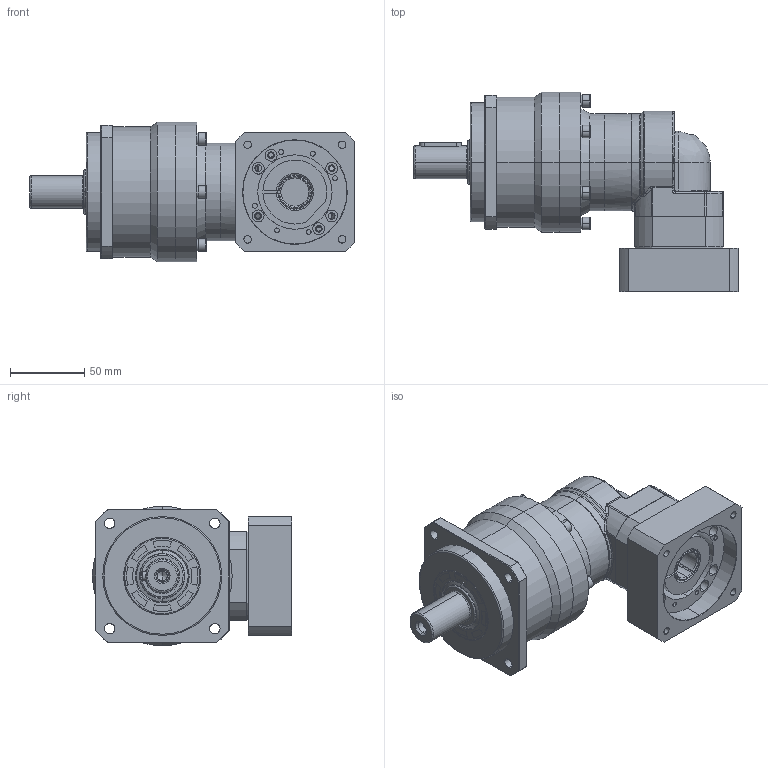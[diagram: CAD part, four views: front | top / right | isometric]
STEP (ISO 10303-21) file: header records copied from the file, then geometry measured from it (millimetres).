
FILE_DESCRIPTION (( 'STEP AP214' ), '1' );
FILE_NAME ('EVB090-L2-S2-P1 19-70-90-M6-42.5.STEP', '2025-02-14T03:41:04', ( '微软用户' ), ( '微软中国' ), 'SwSTEP 2.0', 'SolidWorks 2021', '' );
FILE_SCHEMA (( 'AUTOMOTIVE_DESIGN' ));
Length unit declared in the file: millimetre
Products named in the file (1): EVB090-L2-S2-P1 19-70-90-M6-42.5
Bounding box: 218.5 x 134.02 x 94 mm (x, y, z)
Surface area: 167734.4 mm2 (no closed solid volume)
Topology: 0 solids, 30 shells, 1052 faces, 2605 edges, 1653 vertices
Faces by surface type: cylinder 411, plane 309, bspline 155, cone 140, torus 37
Entity records: 54017 total; most frequent: CARTESIAN_POINT 19605, ORIENTED_EDGE 5044, DIRECTION 4487, EDGE_CURVE 2575, AXIS2_PLACEMENT_3D 1806, VERTEX_POINT 1653, EDGE_LOOP 1195, ADVANCED_FACE 1052
